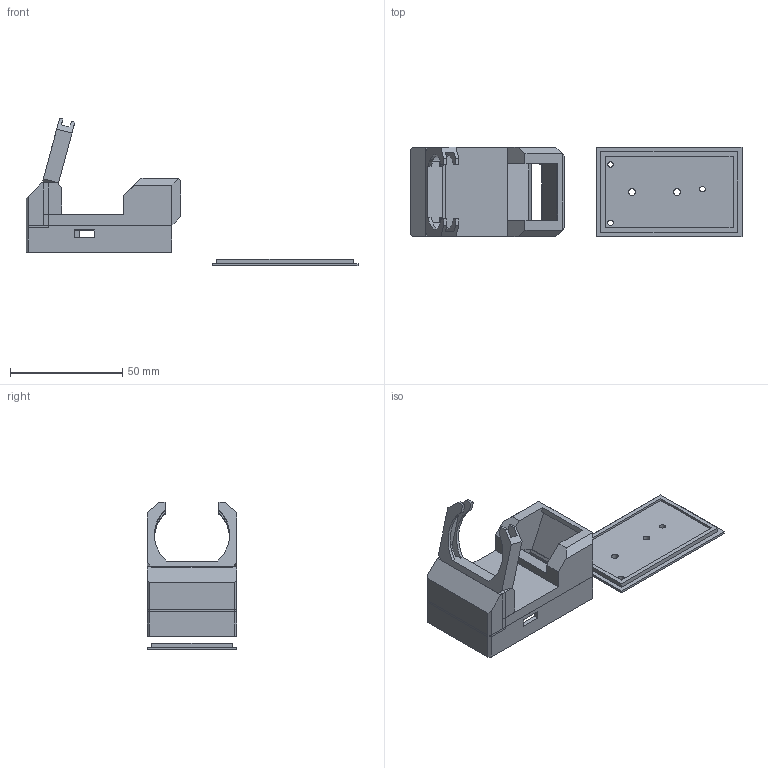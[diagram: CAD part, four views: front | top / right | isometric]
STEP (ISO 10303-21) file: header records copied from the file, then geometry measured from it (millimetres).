
FILE_DESCRIPTION(/* description */ (''),/* implementation_level */ '2;1');
FILE_NAME(/* name */ 'C:/Users/daixi/Desktop/dsd sight-v6.0.stp',/* time_stamp */ '2025-06-05T12:07:14+08:00',/* author */ (''),/* organization */ (''),/* preprocessor_version */ 'ST-DEVELOPER v15.2',/* originating_system */ 'Autodesk Translator Framework v2.0.0.5431',/* authorisation */ '');
FILE_SCHEMA (('AUTOMOTIVE_DESIGN { 1 0 10303 214 3 1 1 }'));
Length unit declared in the file: centimetre
Products named in the file (1): sightv5
Bounding box: 148 x 40 x 65.89 mm (x, y, z)
Volume: 46162.2 mm3; surface area: 30938.3 mm2
Topology: 9 solids, 9 shells, 142 faces, 362 edges, 240 vertices
Faces by surface type: plane 125, cylinder 17
Full cylindrical faces by diameter (mm): 2.5 x6, 3 x2, 6 x3
Entity records: 4206 total; most frequent: CARTESIAN_POINT 730, ORIENTED_EDGE 698, DIRECTION 669, EDGE_CURVE 349, LINE 315, VECTOR 315, VERTEX_POINT 238, AXIS2_PLACEMENT_3D 177
